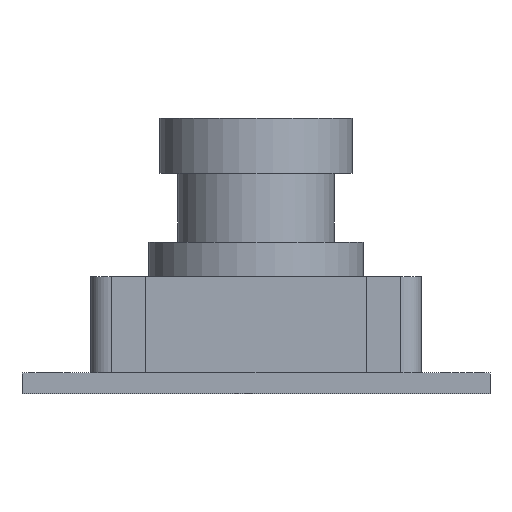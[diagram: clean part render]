
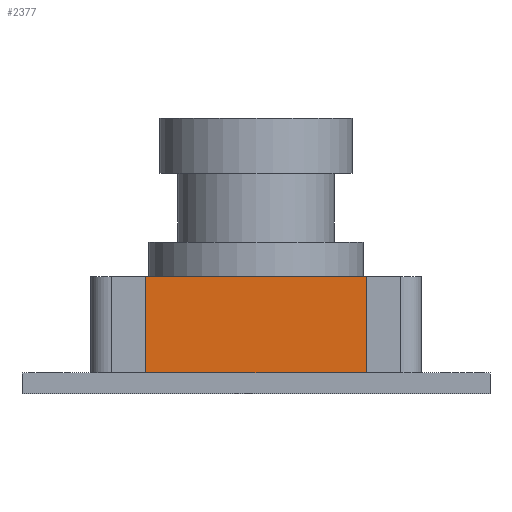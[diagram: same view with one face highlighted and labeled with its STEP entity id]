
A CAD part, front view. The second image highlights one B-rep face of the part: STEP entity #2377.
In plain terms, the highlighted planar face has unit normal (0, -1, 0).
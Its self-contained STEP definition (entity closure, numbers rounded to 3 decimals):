
#1249 = PLANE('',#1250);
#1250 = AXIS2_PLACEMENT_3D('',#1251,#1252,#1253);
#1251 = CARTESIAN_POINT('',(-0.004,0.013,7.));
#1252 = DIRECTION('',(-0.,-0.,-1.));
#1253 = DIRECTION('',(-1.,0.,0.));
#1525 = VERTEX_POINT('',#1526);
#1526 = CARTESIAN_POINT('',(8.,-7.978,7.));
#1540 = PLANE('',#1541);
#1541 = AXIS2_PLACEMENT_3D('',#1542,#1543,#1544);
#1542 = CARTESIAN_POINT('',(8.,-1.978,0.));
#1543 = DIRECTION('',(1.,0.,0.));
#1544 = DIRECTION('',(0.,-1.,0.));
#1552 = EDGE_CURVE('',#1525,#1553,#1555,.T.);
#1553 = VERTEX_POINT('',#1554);
#1554 = CARTESIAN_POINT('',(-8.,-7.978,7.));
#1555 = SURFACE_CURVE('',#1556,(#1560,#1567),.PCURVE_S1.);
#1556 = LINE('',#1557,#1558);
#1557 = CARTESIAN_POINT('',(8.,-7.978,7.));
#1558 = VECTOR('',#1559,1.);
#1559 = DIRECTION('',(-1.,0.,0.));
#1560 = PCURVE('',#1249,#1561);
#1561 = DEFINITIONAL_REPRESENTATION('',(#1562),#1566);
#1562 = LINE('',#1563,#1564);
#1563 = CARTESIAN_POINT('',(-8.004,-7.991));
#1564 = VECTOR('',#1565,1.);
#1565 = DIRECTION('',(1.,0.));
#1566 = ( GEOMETRIC_REPRESENTATION_CONTEXT(2) 
PARAMETRIC_REPRESENTATION_CONTEXT() REPRESENTATION_CONTEXT('2D SPACE',''
  ) );
#1567 = PCURVE('',#1568,#1573);
#1568 = PLANE('',#1569);
#1569 = AXIS2_PLACEMENT_3D('',#1570,#1571,#1572);
#1570 = CARTESIAN_POINT('',(8.,-7.978,0.));
#1571 = DIRECTION('',(0.,-1.,0.));
#1572 = DIRECTION('',(-1.,0.,0.));
#1573 = DEFINITIONAL_REPRESENTATION('',(#1574),#1578);
#1574 = LINE('',#1575,#1576);
#1575 = CARTESIAN_POINT('',(0.,-7.));
#1576 = VECTOR('',#1577,1.);
#1577 = DIRECTION('',(1.,0.));
#1578 = ( GEOMETRIC_REPRESENTATION_CONTEXT(2) 
PARAMETRIC_REPRESENTATION_CONTEXT() REPRESENTATION_CONTEXT('2D SPACE',''
  ) );
#1596 = PLANE('',#1597);
#1597 = AXIS2_PLACEMENT_3D('',#1598,#1599,#1600);
#1598 = CARTESIAN_POINT('',(-8.,-7.978,0.));
#1599 = DIRECTION('',(-1.,0.,0.));
#1600 = DIRECTION('',(0.,1.,0.));
#1822 = PLANE('',#1823);
#1823 = AXIS2_PLACEMENT_3D('',#1824,#1825,#1826);
#1824 = CARTESIAN_POINT('',(-0.004,0.013,0.));
#1825 = DIRECTION('',(-0.,-0.,-1.));
#1826 = DIRECTION('',(-1.,0.,0.));
#2282 = EDGE_CURVE('',#2283,#1553,#2285,.T.);
#2283 = VERTEX_POINT('',#2284);
#2284 = CARTESIAN_POINT('',(-8.,-7.978,0.));
#2285 = SURFACE_CURVE('',#2286,(#2290,#2297),.PCURVE_S1.);
#2286 = LINE('',#2287,#2288);
#2287 = CARTESIAN_POINT('',(-8.,-7.978,0.));
#2288 = VECTOR('',#2289,1.);
#2289 = DIRECTION('',(0.,0.,1.));
#2290 = PCURVE('',#1596,#2291);
#2291 = DEFINITIONAL_REPRESENTATION('',(#2292),#2296);
#2292 = LINE('',#2293,#2294);
#2293 = CARTESIAN_POINT('',(0.,0.));
#2294 = VECTOR('',#2295,1.);
#2295 = DIRECTION('',(0.,-1.));
#2296 = ( GEOMETRIC_REPRESENTATION_CONTEXT(2) 
PARAMETRIC_REPRESENTATION_CONTEXT() REPRESENTATION_CONTEXT('2D SPACE',''
  ) );
#2297 = PCURVE('',#1568,#2298);
#2298 = DEFINITIONAL_REPRESENTATION('',(#2299),#2303);
#2299 = LINE('',#2300,#2301);
#2300 = CARTESIAN_POINT('',(16.,0.));
#2301 = VECTOR('',#2302,1.);
#2302 = DIRECTION('',(0.,-1.));
#2303 = ( GEOMETRIC_REPRESENTATION_CONTEXT(2) 
PARAMETRIC_REPRESENTATION_CONTEXT() REPRESENTATION_CONTEXT('2D SPACE',''
  ) );
#2377 = ADVANCED_FACE('',(#2378),#1568,.T.);
#2378 = FACE_BOUND('',#2379,.T.);
#2379 = EDGE_LOOP('',(#2380,#2403,#2404,#2405));
#2380 = ORIENTED_EDGE('',*,*,#2381,.T.);
#2381 = EDGE_CURVE('',#2382,#1525,#2384,.T.);
#2382 = VERTEX_POINT('',#2383);
#2383 = CARTESIAN_POINT('',(8.,-7.978,0.));
#2384 = SURFACE_CURVE('',#2385,(#2389,#2396),.PCURVE_S1.);
#2385 = LINE('',#2386,#2387);
#2386 = CARTESIAN_POINT('',(8.,-7.978,0.));
#2387 = VECTOR('',#2388,1.);
#2388 = DIRECTION('',(0.,0.,1.));
#2389 = PCURVE('',#1568,#2390);
#2390 = DEFINITIONAL_REPRESENTATION('',(#2391),#2395);
#2391 = LINE('',#2392,#2393);
#2392 = CARTESIAN_POINT('',(0.,-0.));
#2393 = VECTOR('',#2394,1.);
#2394 = DIRECTION('',(0.,-1.));
#2395 = ( GEOMETRIC_REPRESENTATION_CONTEXT(2) 
PARAMETRIC_REPRESENTATION_CONTEXT() REPRESENTATION_CONTEXT('2D SPACE',''
  ) );
#2396 = PCURVE('',#1540,#2397);
#2397 = DEFINITIONAL_REPRESENTATION('',(#2398),#2402);
#2398 = LINE('',#2399,#2400);
#2399 = CARTESIAN_POINT('',(6.,0.));
#2400 = VECTOR('',#2401,1.);
#2401 = DIRECTION('',(0.,-1.));
#2402 = ( GEOMETRIC_REPRESENTATION_CONTEXT(2) 
PARAMETRIC_REPRESENTATION_CONTEXT() REPRESENTATION_CONTEXT('2D SPACE',''
  ) );
#2403 = ORIENTED_EDGE('',*,*,#1552,.T.);
#2404 = ORIENTED_EDGE('',*,*,#2282,.F.);
#2405 = ORIENTED_EDGE('',*,*,#2406,.F.);
#2406 = EDGE_CURVE('',#2382,#2283,#2407,.T.);
#2407 = SURFACE_CURVE('',#2408,(#2412,#2419),.PCURVE_S1.);
#2408 = LINE('',#2409,#2410);
#2409 = CARTESIAN_POINT('',(8.,-7.978,0.));
#2410 = VECTOR('',#2411,1.);
#2411 = DIRECTION('',(-1.,0.,0.));
#2412 = PCURVE('',#1568,#2413);
#2413 = DEFINITIONAL_REPRESENTATION('',(#2414),#2418);
#2414 = LINE('',#2415,#2416);
#2415 = CARTESIAN_POINT('',(0.,-0.));
#2416 = VECTOR('',#2417,1.);
#2417 = DIRECTION('',(1.,0.));
#2418 = ( GEOMETRIC_REPRESENTATION_CONTEXT(2) 
PARAMETRIC_REPRESENTATION_CONTEXT() REPRESENTATION_CONTEXT('2D SPACE',''
  ) );
#2419 = PCURVE('',#1822,#2420);
#2420 = DEFINITIONAL_REPRESENTATION('',(#2421),#2425);
#2421 = LINE('',#2422,#2423);
#2422 = CARTESIAN_POINT('',(-8.004,-7.991));
#2423 = VECTOR('',#2424,1.);
#2424 = DIRECTION('',(1.,0.));
#2425 = ( GEOMETRIC_REPRESENTATION_CONTEXT(2) 
PARAMETRIC_REPRESENTATION_CONTEXT() REPRESENTATION_CONTEXT('2D SPACE',''
  ) );
